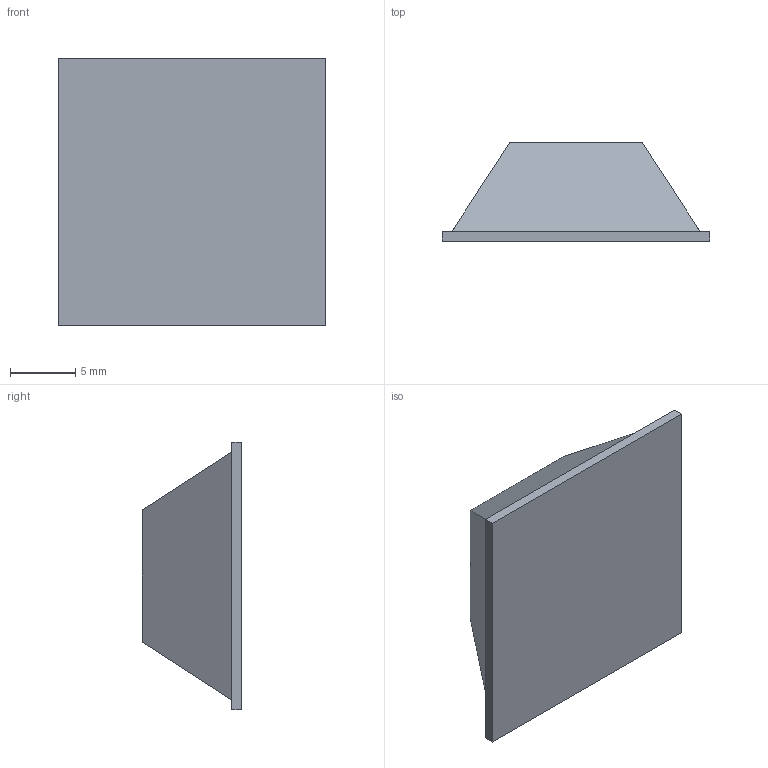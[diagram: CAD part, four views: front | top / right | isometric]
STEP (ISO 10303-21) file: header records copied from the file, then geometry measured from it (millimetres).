
FILE_DESCRIPTION(/* description */ (''),/* implementation_level */ '2;1');
FILE_NAME(/* name */ 'C:/Users/Mark/Downloads/STEP Files/BS19.step',/* time_stamp */ '2020-02-10T11:29:03-05:00',/* author */ (''),/* organization */ (''),/* preprocessor_version */ 'ST-DEVELOPER v18',/* originating_system */ 'Autodesk Translation Framework v8.12.0.6',/* authorisation */ '');
FILE_SCHEMA (('AUTOMOTIVE_DESIGN { 1 0 10303 214 3 1 1 }'));
Length unit declared in the file: inch
Products named in the file (1): BS19
Bounding box: 20.57 x 7.62 x 20.57 mm (x, y, z)
Volume: 1832.5 mm3; surface area: 1127.4 mm2
Topology: 1 solids, 1 shells, 15 faces, 32 edges, 20 vertices
Faces by surface type: plane 15
Entity records: 429 total; most frequent: CARTESIAN_POINT 68, ORIENTED_EDGE 64, DIRECTION 64, LINE 32, VECTOR 32, EDGE_CURVE 32, VERTEX_POINT 20, EDGE_LOOP 16
